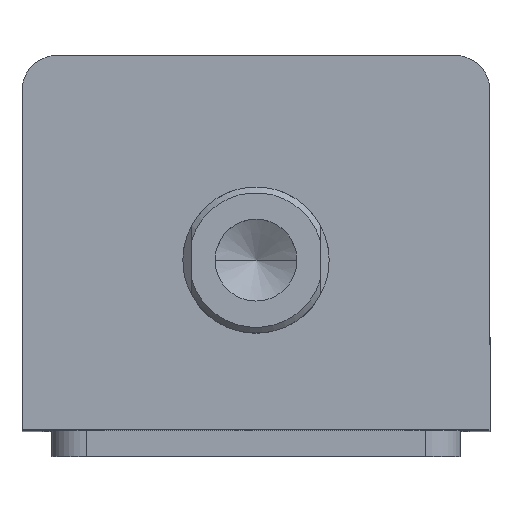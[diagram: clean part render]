
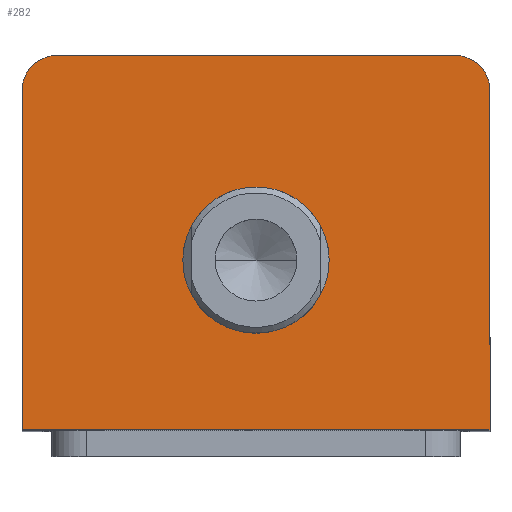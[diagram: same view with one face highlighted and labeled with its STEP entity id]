
A CAD part, top view. The second image highlights one B-rep face of the part: STEP entity #282.
In plain terms, the highlighted planar face has unit normal (0, 0, 1).
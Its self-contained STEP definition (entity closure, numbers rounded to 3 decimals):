
#79 = DIRECTION ( 'NONE',  ( -1., 0., 0. ) ) ;
#82 = CARTESIAN_POINT ( 'NONE',  ( -40., 32., 170. ) ) ;
#142 = VERTEX_POINT ( 'NONE', #2825 ) ;
#156 = VERTEX_POINT ( 'NONE', #2805 ) ;
#185 = EDGE_CURVE ( 'NONE', #857, #720, #1901, .T. ) ;
#252 = ORIENTED_EDGE ( 'NONE', *, *, #1428, .F. ) ;
#253 = ORIENTED_EDGE ( 'NONE', *, *, #1104, .F. ) ;
#254 = ORIENTED_EDGE ( 'NONE', *, *, #2890, .T. ) ;
#255 = ORIENTED_EDGE ( 'NONE', *, *, #1079, .T. ) ;
#256 = ORIENTED_EDGE ( 'NONE', *, *, #1083, .T. ) ;
#257 = ORIENTED_EDGE ( 'NONE', *, *, #267, .T. ) ;
#259 = ORIENTED_EDGE ( 'NONE', *, *, #767, .T. ) ;
#267 = EDGE_CURVE ( 'NONE', #818, #815, #1937, .T. ) ;
#282 = ADVANCED_FACE ( 'NONE', ( #1966, #1969 ), #2589, .T. ) ;
#419 = CARTESIAN_POINT ( 'NONE',  ( -34., 32., 170. ) ) ;
#442 = CARTESIAN_POINT ( 'NONE',  ( -40., -32., 170. ) ) ;
#446 = CARTESIAN_POINT ( 'NONE',  ( 40., -32., 170. ) ) ;
#529 = DIRECTION ( 'NONE',  ( 0., 1., 0. ) ) ;
#531 = CARTESIAN_POINT ( 'NONE',  ( 40., 32., 170. ) ) ;
#591 = CARTESIAN_POINT ( 'NONE',  ( 34., 32., 170. ) ) ;
#720 = VERTEX_POINT ( 'NONE', #591 ) ;
#767 = EDGE_CURVE ( 'NONE', #815, #857, #2209, .T. ) ;
#815 = VERTEX_POINT ( 'NONE', #446 ) ;
#818 = VERTEX_POINT ( 'NONE', #442 ) ;
#838 = VERTEX_POINT ( 'NONE', #419 ) ;
#843 = VERTEX_POINT ( 'NONE', #3125 ) ;
#857 = VERTEX_POINT ( 'NONE', #3091 ) ;
#1079 = EDGE_CURVE ( 'NONE', #838, #843, #2253, .T. ) ;
#1083 = EDGE_CURVE ( 'NONE', #843, #818, #2259, .T. ) ;
#1104 = EDGE_CURVE ( 'NONE', #156, #142, #2283, .T. ) ;
#1132 = AXIS2_PLACEMENT_3D ( 'NONE', #2730, #2729, #2728 ) ;
#1160 = AXIS2_PLACEMENT_3D ( 'NONE', #2597, #2587, #2586 ) ;
#1289 = AXIS2_PLACEMENT_3D ( 'NONE', #3122, #3121, #3120 ) ;
#1293 = AXIS2_PLACEMENT_3D ( 'NONE', #3053, #3052, #3051 ) ;
#1295 = AXIS2_PLACEMENT_3D ( 'NONE', #3029, #3028, #3027 ) ;
#1428 = EDGE_CURVE ( 'NONE', #142, #156, #2299, .T. ) ;
#1788 = EDGE_LOOP ( 'NONE', ( #254, #255, #256, #257, #259, #3149 ) ) ;
#1796 = EDGE_LOOP ( 'NONE', ( #252, #253 ) ) ;
#1901 = CIRCLE ( 'NONE', #1132, 6. ) ;
#1937 = LINE ( 'NONE', #2672, #1944 ) ;
#1944 = VECTOR ( 'NONE', #2654, 1000. ) ;
#1966 = FACE_BOUND ( 'NONE', #1796, .T. ) ;
#1969 = FACE_OUTER_BOUND ( 'NONE', #1788, .T. ) ;
#2200 = VECTOR ( 'NONE', #529, 1000. ) ;
#2209 = LINE ( 'NONE', #531, #2200 ) ;
#2253 = CIRCLE ( 'NONE', #1289, 6. ) ;
#2259 = LINE ( 'NONE', #3109, #2262 ) ;
#2262 = VECTOR ( 'NONE', #3108, 1000. ) ;
#2283 = CIRCLE ( 'NONE', #1293, 12.5 ) ;
#2299 = CIRCLE ( 'NONE', #1295, 12.5 ) ;
#2375 = LINE ( 'NONE', #82, #2378 ) ;
#2378 = VECTOR ( 'NONE', #79, 1000. ) ;
#2586 = DIRECTION ( 'NONE',  ( 1., 0., 0. ) ) ;
#2587 = DIRECTION ( 'NONE',  ( 0., 0., 1. ) ) ;
#2589 = PLANE ( 'NONE',  #1160 ) ;
#2597 = CARTESIAN_POINT ( 'NONE',  ( 0., 0., 170. ) ) ;
#2654 = DIRECTION ( 'NONE',  ( 1., 0., 0. ) ) ;
#2672 = CARTESIAN_POINT ( 'NONE',  ( -40., -32., 170. ) ) ;
#2728 = DIRECTION ( 'NONE',  ( 1., 0., 0. ) ) ;
#2729 = DIRECTION ( 'NONE',  ( 0., 0., 1. ) ) ;
#2730 = CARTESIAN_POINT ( 'NONE',  ( 34., 26., 170. ) ) ;
#2805 = CARTESIAN_POINT ( 'NONE',  ( -12.5, -3., 170. ) ) ;
#2825 = CARTESIAN_POINT ( 'NONE',  ( 12.5, -3., 170. ) ) ;
#2890 = EDGE_CURVE ( 'NONE', #720, #838, #2375, .T. ) ;
#3027 = DIRECTION ( 'NONE',  ( 1., 0., 0. ) ) ;
#3028 = DIRECTION ( 'NONE',  ( 0., 0., 1. ) ) ;
#3029 = CARTESIAN_POINT ( 'NONE',  ( 0., -3., 170. ) ) ;
#3051 = DIRECTION ( 'NONE',  ( 1., 0., 0. ) ) ;
#3052 = DIRECTION ( 'NONE',  ( 0., 0., 1. ) ) ;
#3053 = CARTESIAN_POINT ( 'NONE',  ( 0., -3., 170. ) ) ;
#3091 = CARTESIAN_POINT ( 'NONE',  ( 40., 26., 170. ) ) ;
#3108 = DIRECTION ( 'NONE',  ( 0., -1., 0. ) ) ;
#3109 = CARTESIAN_POINT ( 'NONE',  ( -40., 32., 170. ) ) ;
#3120 = DIRECTION ( 'NONE',  ( 1., 0., 0. ) ) ;
#3121 = DIRECTION ( 'NONE',  ( 0., 0., 1. ) ) ;
#3122 = CARTESIAN_POINT ( 'NONE',  ( -34., 26., 170. ) ) ;
#3125 = CARTESIAN_POINT ( 'NONE',  ( -40., 26., 170. ) ) ;
#3149 = ORIENTED_EDGE ( 'NONE', *, *, #185, .T. ) ;
